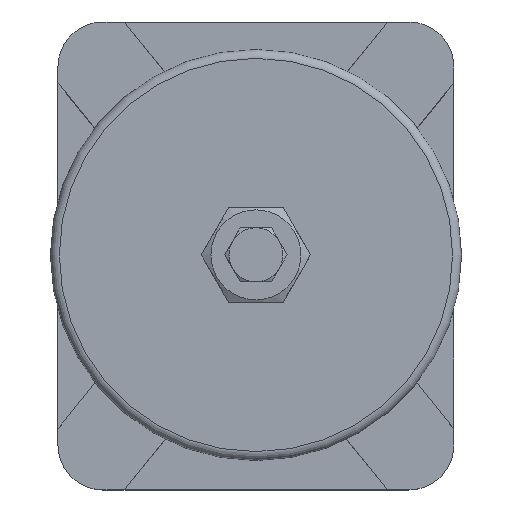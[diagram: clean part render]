
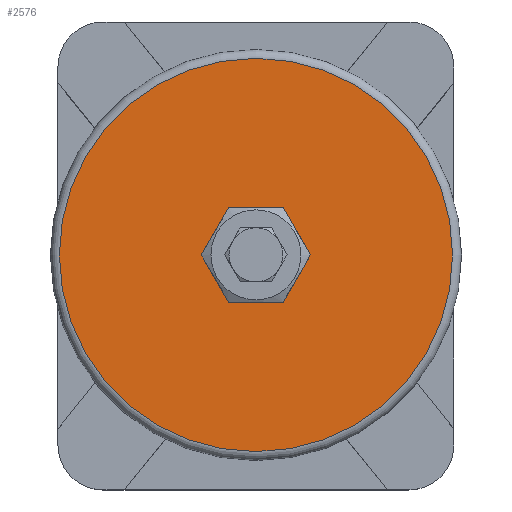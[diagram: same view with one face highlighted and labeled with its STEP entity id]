
A CAD part, top view. The second image highlights one B-rep face of the part: STEP entity #2576.
In plain terms, the highlighted planar face has unit normal (0, 0, 1).
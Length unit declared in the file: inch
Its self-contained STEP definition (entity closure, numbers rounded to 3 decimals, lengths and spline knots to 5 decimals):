
#133=FACE_BOUND('',#491,.T.);
#185=CIRCLE('',#2758,2.73119);
#186=CIRCLE('',#2760,0.38281);
#332=FACE_OUTER_BOUND('',#490,.T.);
#490=EDGE_LOOP('',(#1707));
#491=EDGE_LOOP('',(#1708));
#1048=VERTEX_POINT('',#3756);
#1049=VERTEX_POINT('',#3759);
#1315=EDGE_CURVE('',#1048,#1048,#185,.T.);
#1316=EDGE_CURVE('',#1049,#1049,#186,.T.);
#1707=ORIENTED_EDGE('',*,*,#1315,.F.);
#1708=ORIENTED_EDGE('',*,*,#1316,.F.);
#2319=PLANE('',#2759);
#2576=ADVANCED_FACE('',(#332,#133),#2319,.T.);
#2758=AXIS2_PLACEMENT_3D('',#3757,#3075,#3076);
#2759=AXIS2_PLACEMENT_3D('',#3758,#3077,#3078);
#2760=AXIS2_PLACEMENT_3D('',#3760,#3079,#3080);
#3075=DIRECTION('center_axis',(0.,0.,
-1.));
#3076=DIRECTION('ref_axis',(-1.,0.,0.));
#3077=DIRECTION('center_axis',(0.,0.,
1.));
#3078=DIRECTION('ref_axis',(1.,0.,0.));
#3079=DIRECTION('center_axis',(0.,0.,
1.));
#3080=DIRECTION('ref_axis',(1.,0.,0.));
#3756=CARTESIAN_POINT('',(2.73188,0.,8.3125));
#3757=CARTESIAN_POINT('Origin',(0.00069,0.,
8.3125));
#3758=CARTESIAN_POINT('Origin',(1.6296,0.,8.3125));
#3759=CARTESIAN_POINT('',(0.3835,0.,8.3125));
#3760=CARTESIAN_POINT('Origin',(0.00069,0.,
8.3125));
